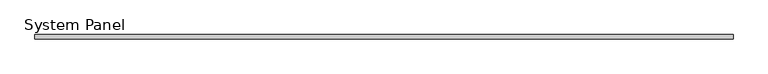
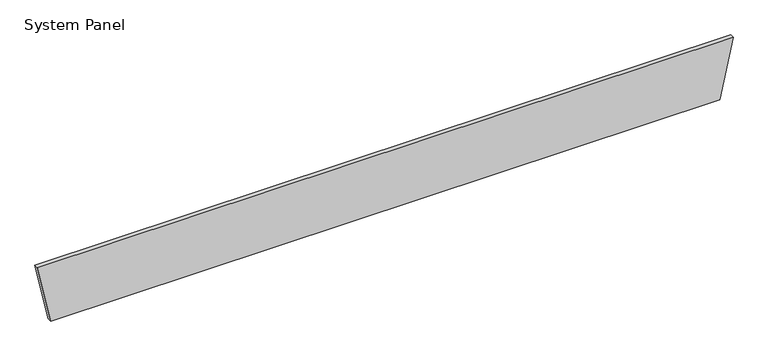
"""IFC4 building model written with IfcOpenShell, lengths in millimetres: plate geometry, System Panel : MetecnoPanel_75mm_Plain_Surfmist."""

from ifc_helpers import new_model, si_unit, frame, origin, place, context, project, spatial, polyline, outline, extrude, source, transform, mapped, element, save


def system_panel_404e2bfc(model_context):
    return source(origin(), model_context, "Body", "SweptSolid", [
        extrude(outline(polyline([(0.0, -6000.0), (0.0, 6000.0), (1100.0, 6239.1323567), (1100.0, -6239.1323567), (0.0, -6000.0)])), frame((0.0, -75.0, 0.0), z_axis=(0.0, 1.0, 0.0), x_axis=(0.0, 0.0, 1.0)), (0.0, 0.0, 1.0), 75.0),
    ])


if __name__ == "__main__":
    model = new_model("IFC4")
    model_context = context("Model", 3, world=origin())
    ifc_project = project(units=[si_unit("LENGTHUNIT", "METRE", prefix="MILLI")], contexts=[model_context])
    site = spatial("IfcSite", under=ifc_project)
    building = spatial("IfcBuilding", under=site)
    placement = place(None, origin())
    system_panel_shape = system_panel_404e2bfc(model_context)
    element("IfcPlate", 1, ObjectType="System Panel : MetecnoPanel_75mm_Plain_Surfmist", at=placement, inside=building, context=model_context, shape_type="MappedRepresentation", body=[
        mapped(system_panel_shape, transform((0.0, 0.0, 0.0), x_axis=(1.0, 0.0, 0.0), y_axis=(0.0, 1.0, 0.0), z_axis=(0.0, 0.0, 1.0))),
    ])
    save(model, "model.ifc")
